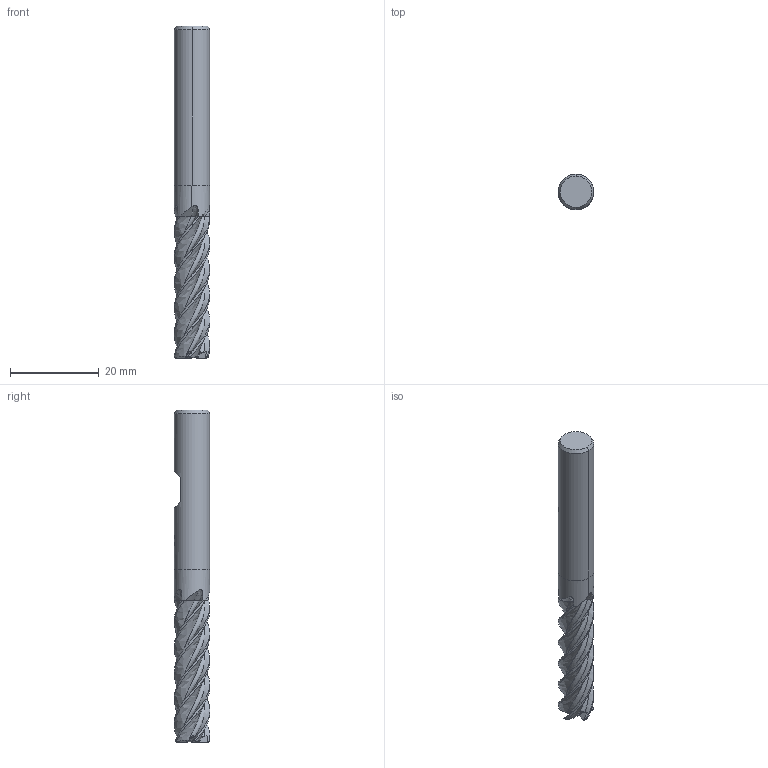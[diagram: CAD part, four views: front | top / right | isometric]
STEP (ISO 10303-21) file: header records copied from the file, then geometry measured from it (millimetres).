
FILE_DESCRIPTION(('no description'),'unknown implementation level');
FILE_NAME('solid3U4CrPSYrom2VD7BcuzUKsCaCh4_1.STP',' ',('CIMSOURCE GmbH'),('CADClick - KiM GmbH - www.kimweb.de'),'unknown preprocess','ACIS','unknown authorization');
FILE_SCHEMA(('automotive_design'));
Length unit declared in the file: millimetre
Products named in the file (2): 1; 2
Bounding box: 8 x 8 x 75 mm (x, y, z)
Volume: 2984.4 mm3; surface area: 2966.9 mm2
Topology: 2 solids, 2 shells, 140 faces, 416 edges, 280 vertices
Faces by surface type: plane 60, revolution 20, bspline 20, cone 18, cylinder 17, torus 5
Entity records: 20574 total; most frequent: CARTESIAN_POINT 12417, STYLED_ITEM 838, PRESENTATION_STYLE_ASSIGNMENT 838, COLOUR_RGB 838, ORIENTED_EDGE 832, DIRECTION 611, EDGE_CURVE 416, CURVE_STYLE 416
